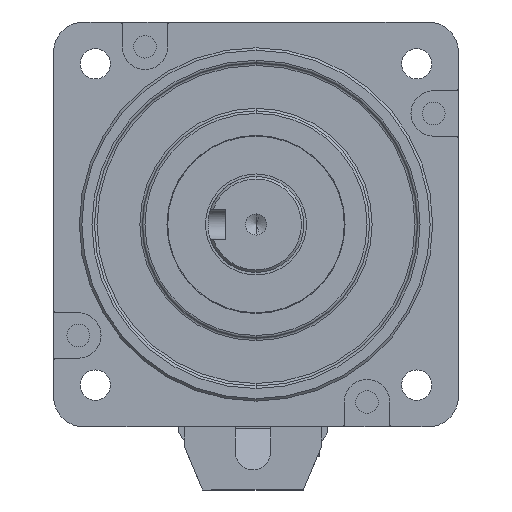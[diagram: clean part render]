
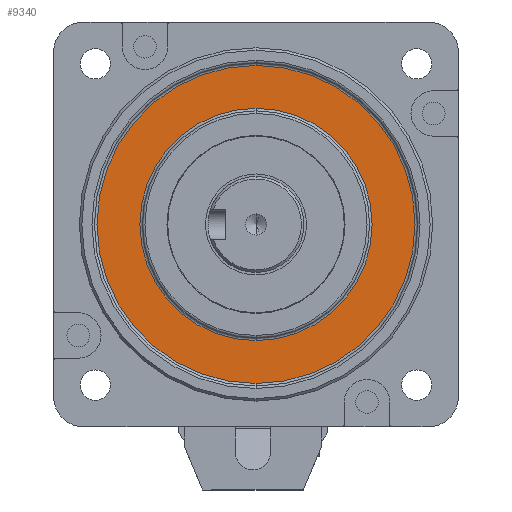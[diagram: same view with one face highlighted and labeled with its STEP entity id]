
A CAD part, left-side view. The second image highlights one B-rep face of the part: STEP entity #9340.
In plain terms, the highlighted planar face has unit normal (-1, 0, 0) as drawn and (0, 0, 1) by its records, which use the part's own axes.
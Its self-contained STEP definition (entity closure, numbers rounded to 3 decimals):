
#106 = DIRECTION ( 'NONE',  ( 0., 0., -1. ) ) ;
#181 = DIRECTION ( 'NONE',  ( 0., 0., -1. ) ) ;
#259 = DIRECTION ( 'NONE',  ( 0., 0., -1. ) ) ;
#1242 = EDGE_CURVE ( 'NONE', #22013, #8488, #17749, .T. ) ;
#1737 = DIRECTION ( 'NONE',  ( 0., 0., -1. ) ) ;
#2158 = CARTESIAN_POINT ( 'NONE',  ( 0., 0., 17. ) ) ;
#2217 = ORIENTED_EDGE ( 'NONE', *, *, #1242, .T. ) ;
#2714 = AXIS2_PLACEMENT_3D ( 'NONE', #2158, #181, #14923 ) ;
#3437 = EDGE_CURVE ( 'NONE', #7456, #25280, #4697, .T. ) ;
#3849 = CARTESIAN_POINT ( 'NONE',  ( 0., 31.5, 17. ) ) ;
#3873 = DIRECTION ( 'NONE',  ( -1., 0., 0. ) ) ;
#4017 = CARTESIAN_POINT ( 'NONE',  ( 0., 0., 17. ) ) ;
#4035 = DIRECTION ( 'NONE',  ( -1., 0., 0. ) ) ;
#4697 = CIRCLE ( 'NONE', #2714, 31.5 ) ;
#4903 = DIRECTION ( 'NONE',  ( -1., 0., 0. ) ) ;
#5009 = EDGE_LOOP ( 'NONE', ( #19049, #11447 ) ) ;
#6053 = DIRECTION ( 'NONE',  ( -1., 0., 0. ) ) ;
#6337 = CARTESIAN_POINT ( 'NONE',  ( 0., 0., 17. ) ) ;
#7456 = VERTEX_POINT ( 'NONE', #18214 ) ;
#8488 = VERTEX_POINT ( 'NONE', #8599 ) ;
#8599 = CARTESIAN_POINT ( 'NONE',  ( -23., 0., 17. ) ) ;
#9340 = ADVANCED_FACE ( 'NONE', ( #18609, #13982 ), #16549, .F. ) ;
#10303 = EDGE_LOOP ( 'NONE', ( #12432, #2217 ) ) ;
#10754 = EDGE_CURVE ( 'NONE', #8488, #22013, #17250, .T. ) ;
#11447 = ORIENTED_EDGE ( 'NONE', *, *, #3437, .F. ) ;
#12115 = CARTESIAN_POINT ( 'NONE',  ( -31.5, 0., 17. ) ) ;
#12348 = DIRECTION ( 'NONE',  ( 0., 0., -1. ) ) ;
#12432 = ORIENTED_EDGE ( 'NONE', *, *, #10754, .T. ) ;
#13982 = FACE_BOUND ( 'NONE', #10303, .T. ) ;
#14475 = AXIS2_PLACEMENT_3D ( 'NONE', #3849, #12348, #6053 ) ;
#14501 = CARTESIAN_POINT ( 'NONE',  ( 0., 0., 17. ) ) ;
#14911 = AXIS2_PLACEMENT_3D ( 'NONE', #14501, #1737, #3873 ) ;
#14923 = DIRECTION ( 'NONE',  ( -1., 0., 0. ) ) ;
#16549 = PLANE ( 'NONE',  #14475 ) ;
#17250 = CIRCLE ( 'NONE', #17700, 23. ) ;
#17700 = AXIS2_PLACEMENT_3D ( 'NONE', #4017, #259, #4903 ) ;
#17749 = CIRCLE ( 'NONE', #18563, 23. ) ;
#18214 = CARTESIAN_POINT ( 'NONE',  ( 31.5, 0., 17. ) ) ;
#18563 = AXIS2_PLACEMENT_3D ( 'NONE', #6337, #106, #4035 ) ;
#18609 = FACE_OUTER_BOUND ( 'NONE', #5009, .T. ) ;
#19049 = ORIENTED_EDGE ( 'NONE', *, *, #23659, .F. ) ;
#21477 = CIRCLE ( 'NONE', #14911, 31.5 ) ;
#22013 = VERTEX_POINT ( 'NONE', #27333 ) ;
#23659 = EDGE_CURVE ( 'NONE', #25280, #7456, #21477, .T. ) ;
#25280 = VERTEX_POINT ( 'NONE', #12115 ) ;
#27333 = CARTESIAN_POINT ( 'NONE',  ( 23., 0., 17. ) ) ;
